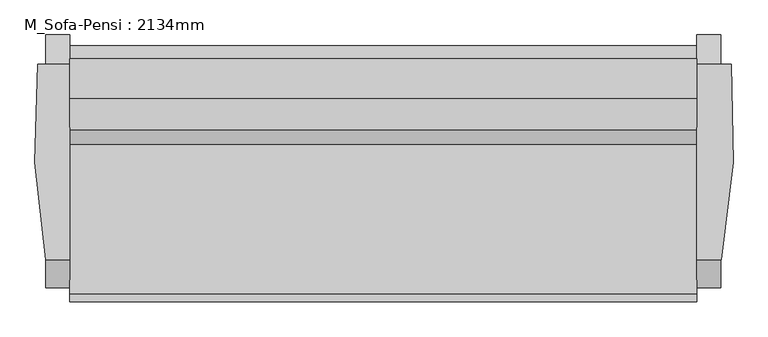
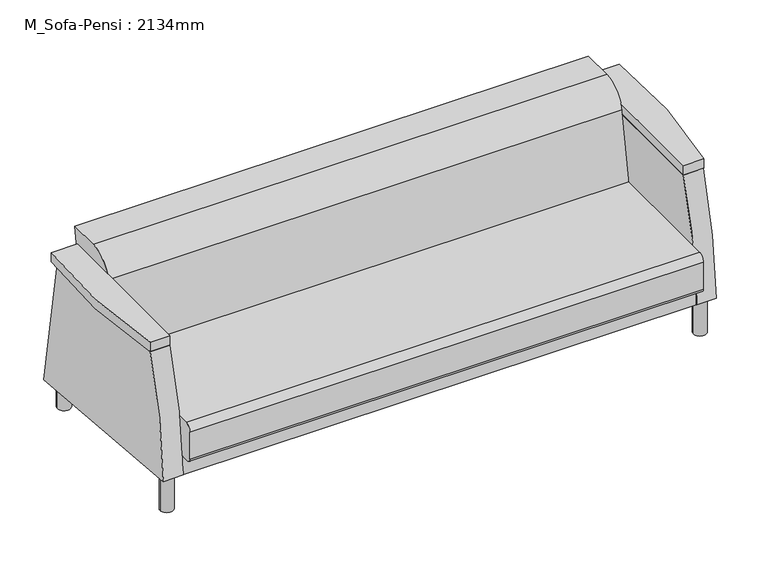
"""IFC4 building model written with IfcOpenShell, lengths in millimetres: furniture geometry, M_Sofa-Pensi : 2134mm."""

from ifc_helpers import new_model, si_unit, point, frame, frame_2d, origin, origin_with_axes, place, context, project, spatial, polyline, circle_curve, trimmed, segment, composite_curve, outline, extrude, source, transform, mapped, element, save
from ifc_brep_helpers import plane_surface, cylinder_surface, advanced_brep


def m_sofa_pensi_2134mm_eda8efce(model_context):
    return source(origin(), model_context, "Body", "SolidModel", [
        advanced_brep(
        [(1345.60625, 701.7619204, 79.3588346), (1345.60625, 608.6917937, 626.0203985), (1345.60625, -9.3943348, 626.0203985), (1345.60625, -97.7900405, 149.3105671), (1269.40625, -9.3943348, 626.0203985), (1269.40625, 608.6917937, 626.0203985), (1269.40625, 701.7619204, 79.3588346), (1269.40625, -83.3930704, 148.0509954), (1269.40625, 668.3047863, 148.0509954), (1269.40625, 668.3047863, 224.2509954), (1269.40625, -93.6952137, 224.2509954), (1269.40625, -93.6952137, 148.9523161), (1269.40625, -97.7900405, 149.3105671), (1269.40625, -93.6952137, 148.0509954), (-712.19375, -83.3930704, 148.0509954), (-712.19375, -93.6952137, 148.0509954), (-712.19375, -93.6952137, 148.9523161), (-712.19375, 668.3047863, 224.2509954), (-712.19375, -93.6952137, 224.2509954), (-712.19375, 668.3047863, 148.0509954), (-712.19375, 701.7619204, 79.3588346), (-712.19375, 608.6917937, 626.0203985), (-712.19375, -9.3943348, 626.0203985), (-712.19375, -97.7900405, 149.3105671), (-788.39375, -9.3943348, 626.0203985), (-788.39375, 608.6917937, 626.0203985), (-788.39375, 701.7619204, 79.3588346), (-788.39375, -97.7900405, 149.3105671)],
        [
            (0, 1),
            (1, 2),
            (2, 3, circle_curve(frame((1345.60625, 1499.9783711, 99.5888442), z_axis=(1.0, 0.0, 0.0), x_axis=(0.0, 1.0, 0.0)), 1598.5418814)),
            (3, 0),
            (4, 5),
            (5, 6),
            (6, 7),
            (7, 8),
            (8, 9),
            (9, 10),
            (10, 4, circle_curve(frame((1269.40625, 1499.9783711, 99.5888442), z_axis=(-1.0, 0.0, 0.0), x_axis=(0.0, 1.0, 0.0)), 1598.5418814)),
            (11, 12),
            (12, 10, circle_curve(frame((1269.40625, 1499.9783711, 99.5888442), z_axis=(-1.0, 0.0, 0.0), x_axis=(0.0, 1.0, 0.0)), 1598.5418814)),
            (10, 11),
            (0, 6),
            (5, 1),
            (4, 2),
            (12, 3),
            (11, 7),
            (11, 13),
            (13, 7),
            (14, 15),
            (15, 16),
            (16, 14),
            (9, 17),
            (17, 18),
            (18, 10),
            (18, 16),
            (15, 13),
            (14, 19),
            (19, 8),
            (19, 17),
            (20, 21),
            (21, 22),
            (22, 18, circle_curve(frame((-712.19375, 1499.9783711, 99.5888442), z_axis=(1.0, 0.0, 0.0), x_axis=(0.0, 1.0, 0.0)), 1598.5418814)),
            (14, 20),
            (18, 23, circle_curve(frame((-712.19375, 1499.9783711, 99.5888442), z_axis=(1.0, 0.0, 0.0), x_axis=(0.0, 1.0, 0.0)), 1598.5418814)),
            (23, 16),
            (24, 25),
            (25, 26),
            (26, 27),
            (27, 24, circle_curve(frame((-788.39375, 1499.9783711, 99.5888442), z_axis=(-1.0, 0.0, 0.0), x_axis=(0.0, 1.0, 0.0)), 1598.5418814)),
            (27, 23),
            (22, 24),
            (26, 20),
            (25, 21),
        ],
        [
            plane_surface(frame((1345.60625, 608.6917937, 626.0203985), z_axis=(1.0000000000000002, 0.0, 0.0), x_axis=(0.0, -0.16783676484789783, 0.985814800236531))),
            plane_surface(frame((1269.40625, 608.6917937, 626.0203985), z_axis=(-1.0000000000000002, 0.0, 0.0), x_axis=(0.0, 0.16783676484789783, -0.985814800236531))),
            plane_surface(frame((1345.60625, 701.7619204, 79.3588346), z_axis=(0.0, 0.985814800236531, 0.16783676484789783), x_axis=(-1.0, 0.0, 0.0))),
            plane_surface(frame((1345.60625, 608.6917937, 626.0203985), z_axis=(0.0, 0.0, 1.0), x_axis=(-1.0, 0.0, 0.0))),
            cylinder_surface(frame((1269.40625, 1499.9783711, 99.5888442), z_axis=(1.0, 0.0, 0.0), x_axis=(0.0, 1.0, 0.0)), 1598.5418814),
            plane_surface(frame((1345.60625, -97.7900405, 149.3105671), z_axis=(0.0, -0.08715574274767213, -0.9961946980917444), x_axis=(-1.0, 0.0, 0.0))),
            plane_surface(frame((1269.40625, -93.6952137, 224.2509954), z_axis=(1.0, 0.0, 0.0), x_axis=(0.0, -1.0, 0.0))),
            plane_surface(frame((-712.19375, -93.6952137, 224.2509954), z_axis=(-1.0, 0.0, 0.0), x_axis=(0.0, 1.0, 0.0))),
            plane_surface(frame((1269.40625, 668.3047863, 224.2509954), z_axis=(0.0, 0.0, 1.0), x_axis=(-1.0, 0.0, 0.0))),
            plane_surface(frame((1269.40625, -93.6952137, 224.2509954), z_axis=(0.0, -1.0, 0.0), x_axis=(-1.0, 0.0, 0.0))),
            plane_surface(frame((1269.40625, -93.6952137, 148.0509954), z_axis=(0.0, 0.0, -1.0), x_axis=(-1.0, 0.0, 0.0))),
            plane_surface(frame((1269.40625, 668.3047863, 148.0509954), z_axis=(0.0, 1.0, 0.0), x_axis=(-1.0, 0.0, 0.0))),
            plane_surface(frame((-712.19375, 3098.5202525, 99.5888442), z_axis=(1.0, 0.0, 0.0), x_axis=(0.0, 0.0, 1.0))),
            plane_surface(frame((-788.39375, 3098.5202525, 99.5888442), z_axis=(-1.0, 0.0, 0.0), x_axis=(0.0, 0.0, -1.0))),
            cylinder_surface(frame((-788.39375, 1499.9783711, 99.5888442), z_axis=(1.0, 0.0, 0.0), x_axis=(0.0, 1.0, 0.0)), 1598.5418814),
            plane_surface(frame((-712.19375, -97.7900405, 149.3105671), z_axis=(0.0, -0.08715574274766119, -0.9961946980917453), x_axis=(-1.0, 0.0, 0.0))),
            plane_surface(frame((-712.19375, 701.7619204, 79.3588346), z_axis=(0.0, 0.9858148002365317, 0.16783676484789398), x_axis=(-1.0, 0.0, 0.0))),
            plane_surface(frame((-712.19375, 608.6917937, 626.0203985), z_axis=(0.0, 0.0, 1.0), x_axis=(-1.0, 0.0, 0.0))),
        ],
        [
            (0, [[1, 2, 3, 4]]),
            (1, [[5, 6, 7, 8, 9, 10, 11]]),
            (1, [[12, 13, 14]]),
            (2, [[-1, 15, -6, 16]]),
            (3, [[-2, -16, -5, 17]]),
            (4, [[-3, -17, -11, -13, 18]]),
            (5, [[-4, -18, -12, 19, -7, -15]]),
            (6, [[20, 21, -19]]),
            (7, [[22, 23, 24]]),
            (8, [[25, 26, 27, -10]]),
            (9, [[-27, 28, -23, 29, -20, -14]]),
            (10, [[-29, -22, 30, 31, -8, -21]]),
            (11, [[-25, -9, -31, 32]]),
            (12, [[33, 34, 35, -26, -32, -30, 36]]),
            (12, [[37, 38, -28]]),
            (13, [[39, 40, 41, 42]]),
            (14, [[-42, 43, -37, -35, 44]]),
            (15, [[-41, 45, -36, -24, -38, -43]]),
            (16, [[-33, -45, -40, 46]]),
            (17, [[-34, -46, -39, -44]]),
        ],
    ),
        extrude(outline(composite_curve([segment(trimmed(circle_curve(frame_2d((-750.29375, -53.0901639)), 25.4), [point((-775.69375, -53.0901639))], [point((-724.89375, -53.0901639))], False, "CARTESIAN"), True, "CONTINUOUS"), segment(trimmed(circle_curve(frame_2d((-750.29375, -53.0901639)), 25.4), [point((-724.89375, -53.0901639))], [point((-775.69375, -53.0901639))], False, "CARTESIAN"), True, "CONTINUOUS")], self_intersect=False)), origin_with_axes(), (0.0, 0.0, 1.0), 148.43125),
        extrude(outline(composite_curve([segment(trimmed(circle_curve(frame_2d((-750.29375, 632.7098361)), 25.4), [point((-775.69375, 632.7098361))], [point((-724.89375, 632.7098361))], False, "CARTESIAN"), True, "CONTINUOUS"), segment(trimmed(circle_curve(frame_2d((-750.29375, 632.7098361)), 25.4), [point((-724.89375, 632.7098361))], [point((-775.69375, 632.7098361))], False, "CARTESIAN"), True, "CONTINUOUS")], self_intersect=False)), origin_with_axes(), (0.0, 0.0, 1.0), 148.43125),
        extrude(outline(composite_curve([segment(trimmed(circle_curve(frame_2d((1307.50625, 632.7098361)), 25.4), [point((1282.10625, 632.7098361))], [point((1332.90625, 632.7098361))], False, "CARTESIAN"), True, "CONTINUOUS"), segment(trimmed(circle_curve(frame_2d((1307.50625, 632.7098361)), 25.4), [point((1332.90625, 632.7098361))], [point((1282.10625, 632.7098361))], False, "CARTESIAN"), True, "CONTINUOUS")], self_intersect=False)), origin_with_axes(), (0.0, 0.0, 1.0), 148.43125),
        extrude(outline(composite_curve([segment(trimmed(circle_curve(frame_2d((1307.50625, -53.0901639)), 25.4), [point((1282.10625, -53.0901639))], [point((1332.90625, -53.0901639))], False, "CARTESIAN"), True, "CONTINUOUS"), segment(trimmed(circle_curve(frame_2d((1307.50625, -53.0901639)), 25.4), [point((1332.90625, -53.0901639))], [point((1282.10625, -53.0901639))], False, "CARTESIAN"), True, "CONTINUOUS")], self_intersect=False)), origin_with_axes(), (0.0, 0.0, 1.0), 148.43125),
        extrude(outline(composite_curve([segment(trimmed(circle_curve(frame_2d((-116.5901639, 351.2509954)), 25.4), [point((-141.9901639, 351.2509954))], [point((-116.5901639, 376.6509954))], False, "CARTESIAN"), True, "CONTINUOUS"), segment(polyline([(-116.5901639, 376.6509954), (355.3895541, 376.6509954), (402.1988177, 642.1195211)]), True, "CONTINUOUS"), segment(trimmed(circle_curve(frame_2d((502.2552854, 624.4768662)), 101.6), [point((402.1988177, 642.1195211))], [point((502.2552854, 726.0768662))], False, "CARTESIAN"), True, "CONTINUOUS"), segment(polyline([(502.2552854, 726.0768662), (626.3344485, 726.0768662), (609.5377828, 620.1719187), (667.6541767, 224.2509954), (-126.1151639, 224.2509954)]), True, "CONTINUOUS"), segment(trimmed(circle_curve(frame_2d((-126.1151639, 240.1259954)), 15.875), [point((-126.1151639, 224.2509954))], [point((-141.9901639, 240.1259954))], False, "CARTESIAN"), True, "CONTINUOUS"), segment(polyline([(-141.9901639, 240.1259954), (-141.9901639, 351.2509954)]), True, "CONTINUOUS")], self_intersect=False)), frame((-712.19375, 0.0, 0.0), z_axis=(1.0, 0.0, 0.0), x_axis=(0.0, 1.0, 0.0)), (0.0, 0.0, 1.0), 1981.6),
        extrude(outline(composite_curve([segment(polyline([(-712.19375, -9.3943348), (-788.39375, -9.3943348)]), True, "CONTINUOUS"), segment(trimmed(circle_curve(frame_2d((1379.7527561, 389.2697363)), 2204.4936638), [point((-788.39375, -9.3943348))], [point((-813.79375, 608.6917935))], False, "CARTESIAN"), True, "CONTINUOUS"), segment(polyline([(-813.79375, 608.6917935), (-712.19375, 608.6917935), (-712.19375, -9.3943348)]), True, "CONTINUOUS")], self_intersect=False)), frame((0.0, 0.0, 626.0203985), z_axis=(0.0, 0.0, 1.0), x_axis=(1.0, 0.0, 0.0)), (0.0, 0.0, 1.0), 38.1),
        extrude(outline(composite_curve([segment(polyline([(1269.40625, -9.3943348), (1269.40625, 608.9395268), (1378.0864453, 608.9395268)]), True, "CONTINUOUS"), segment(trimmed(circle_curve(frame_2d((-821.5771494, 407.0270204)), 2208.9111775), [point((1378.0864453, 608.9395268))], [point((1347.7273117, -9.3943348))], False, "CARTESIAN"), True, "CONTINUOUS"), segment(polyline([(1347.7273117, -9.3943348), (1269.40625, -9.3943348)]), True, "CONTINUOUS")], self_intersect=False)), frame((0.0, 0.0, 626.0203985), z_axis=(0.0, 0.0, 1.0), x_axis=(1.0, 0.0, 0.0)), (0.0, 0.0, 1.0), 38.1),
    ])


if __name__ == "__main__":
    model = new_model("IFC4")
    model_context = context("Model", 3, world=origin())
    ifc_project = project(units=[si_unit("LENGTHUNIT", "METRE", prefix="MILLI")], contexts=[model_context])
    site = spatial("IfcSite", under=ifc_project)
    building = spatial("IfcBuilding", under=site)
    placement = place(None, origin())
    m_sofa_pensi_2134mm_shape = m_sofa_pensi_2134mm_eda8efce(model_context)
    element("IfcFurniture", 1, ObjectType="M_Sofa-Pensi : 2134mm", at=placement, inside=building, context=model_context, shape_type="MappedRepresentation", body=[
        mapped(m_sofa_pensi_2134mm_shape, transform((0.0, 0.0, 0.0), x_axis=(1.0, 0.0, 0.0), y_axis=(0.0, 1.0, 0.0), z_axis=(0.0, 0.0, 1.0))),
    ])
    save(model, "model.ifc")
